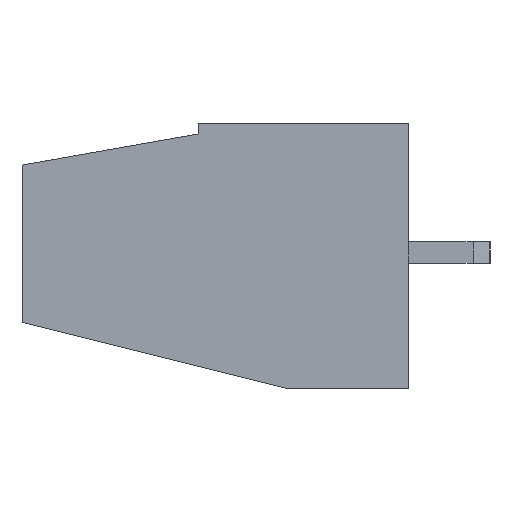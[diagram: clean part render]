
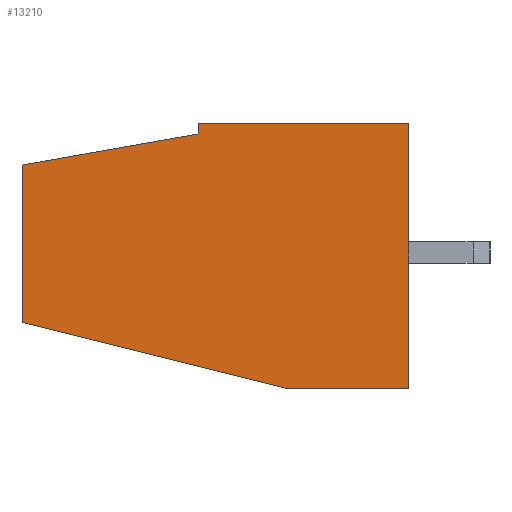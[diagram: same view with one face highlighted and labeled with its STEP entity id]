
A CAD part, left-side view. The second image highlights one B-rep face of the part: STEP entity #13210.
In plain terms, the highlighted planar face has unit normal (-1, 0, 0).
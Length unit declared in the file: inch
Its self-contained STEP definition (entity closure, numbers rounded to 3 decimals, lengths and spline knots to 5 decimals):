
#1=DIRECTION('',(0.,0.,1.));
#2=VECTOR('',#1,0.015);
#3=CARTESIAN_POINT('',(-1.4,0.,0.16));
#4=LINE('',#3,#2);
#5=DIRECTION('',(0.,-1.,0.));
#6=VECTOR('',#5,0.31);
#7=CARTESIAN_POINT('',(-1.4,0.,0.175));
#8=LINE('',#7,#6);
#9=DIRECTION('',(0.,0.,-1.));
#10=VECTOR('',#9,0.39);
#11=CARTESIAN_POINT('',(-1.4,-0.31,0.175));
#12=LINE('',#11,#10);
#13=DIRECTION('',(0.,1.,0.));
#14=VECTOR('',#13,0.18);
#15=CARTESIAN_POINT('',(-1.4,-0.31,-0.215));
#16=LINE('',#15,#14);
#17=DIRECTION('',(0.,0.97,0.242));
#18=VECTOR('',#17,0.40194);
#19=CARTESIAN_POINT('',(-1.4,-0.13,-0.215));
#20=LINE('',#19,#18);
#21=DIRECTION('',(0.,0.,1.));
#22=VECTOR('',#21,0.23192);
#23=CARTESIAN_POINT('',(-1.4,0.26,-0.11776));
#24=LINE('',#23,#22);
#25=DIRECTION('',(0.,-0.985,0.174));
#26=VECTOR('',#25,0.26401);
#27=CARTESIAN_POINT('',(-1.4,0.26,0.11415));
#28=LINE('',#27,#26);
#10333=CARTESIAN_POINT('',(-1.4,0.,0.16));
#10334=CARTESIAN_POINT('',(-1.4,0.,0.175));
#10335=VERTEX_POINT('',#10333);
#10336=VERTEX_POINT('',#10334);
#10337=CARTESIAN_POINT('',(-1.4,-0.31,0.175));
#10338=VERTEX_POINT('',#10337);
#10339=CARTESIAN_POINT('',(-1.4,-0.31,-0.215));
#10340=VERTEX_POINT('',#10339);
#10341=CARTESIAN_POINT('',(-1.4,-0.13,-0.215));
#10342=VERTEX_POINT('',#10341);
#10343=CARTESIAN_POINT('',(-1.4,0.26,-0.11776));
#10344=VERTEX_POINT('',#10343);
#10345=CARTESIAN_POINT('',(-1.4,0.26,0.11415));
#10346=VERTEX_POINT('',#10345);
#13189=CARTESIAN_POINT('',(-1.4,0.,0.));
#13190=DIRECTION('',(1.,0.,0.));
#13191=DIRECTION('',(0.,0.,-1.));
#13192=AXIS2_PLACEMENT_3D('',#13189,#13190,#13191);
#13193=PLANE('',#13192);
#13195=ORIENTED_EDGE('',*,*,#13194,.T.);
#13197=ORIENTED_EDGE('',*,*,#13196,.T.);
#13199=ORIENTED_EDGE('',*,*,#13198,.T.);
#13201=ORIENTED_EDGE('',*,*,#13200,.T.);
#13203=ORIENTED_EDGE('',*,*,#13202,.T.);
#13205=ORIENTED_EDGE('',*,*,#13204,.T.);
#13207=ORIENTED_EDGE('',*,*,#13206,.T.);
#13208=EDGE_LOOP('',(#13195,#13197,#13199,#13201,#13203,#13205,#13207));
#13209=FACE_OUTER_BOUND('',#13208,.F.);
#13210=ADVANCED_FACE('',(#13209),#13193,.F.);
#13194=EDGE_CURVE('',#10335,#10336,#4,.T.);
#13196=EDGE_CURVE('',#10336,#10338,#8,.T.);
#13198=EDGE_CURVE('',#10338,#10340,#12,.T.);
#13200=EDGE_CURVE('',#10340,#10342,#16,.T.);
#13202=EDGE_CURVE('',#10342,#10344,#20,.T.);
#13204=EDGE_CURVE('',#10344,#10346,#24,.T.);
#13206=EDGE_CURVE('',#10346,#10335,#28,.T.);
